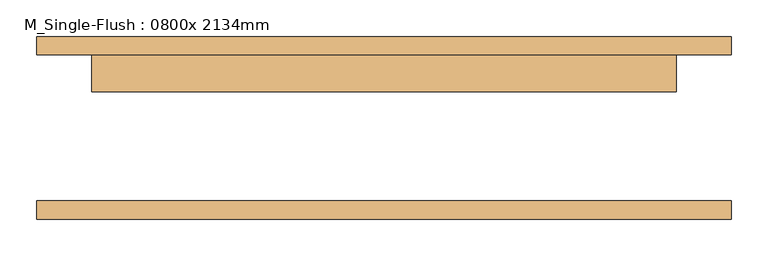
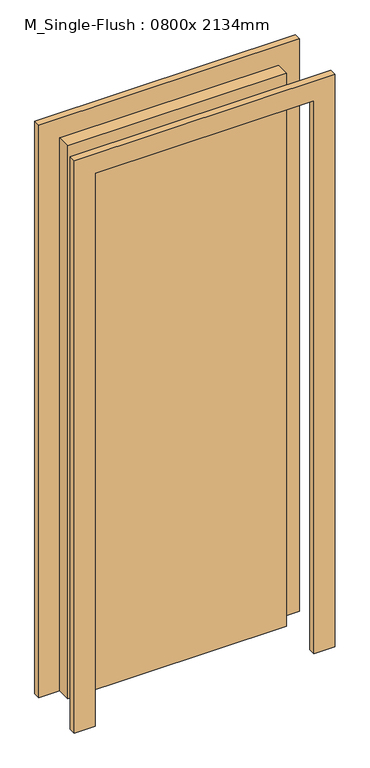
"""IFC4 building model written with IfcOpenShell, lengths in millimetres: door geometry, M_Single-Flush : 0800x 2134mm."""

from ifc_helpers import new_model, si_unit, frame, origin, origin_with_axes, place, context, project, spatial, polyline, outline, extrude, source, transform, mapped, element, save


def m_single_flush_0800x_2134mm_61c991c8(model_context):
    return source(origin(), model_context, "Body", "SweptSolid", [
        extrude(outline(polyline([(400.0, 49.0), (-400.0, 49.0), (-400.0, 100.0), (400.0, 100.0), (400.0, 49.0)])), origin_with_axes(), (0.0, 0.0, 1.0), 2134.0),
        extrude(outline(polyline([(2210.0, -476.0), (0.0, -476.0), (0.0, -400.0), (2134.0, -400.0), (2134.0, 400.0), (0.0, 400.0), (0.0, 476.0), (2210.0, 476.0), (2210.0, -476.0)])), frame((0.0, 100.0, 0.0), z_axis=(0.0, 1.0, 0.0), x_axis=(0.0, 0.0, 1.0)), (0.0, 0.0, 1.0), 25.0),
        extrude(outline(polyline([(2210.0, 476.0), (2210.0, -476.0), (0.0, -476.0), (0.0, -400.0), (2134.0, -400.0), (2134.0, 400.0), (0.0, 400.0), (0.0, 476.0), (2210.0, 476.0)])), frame((0.0, -125.0, 0.0), z_axis=(0.0, 1.0, 0.0), x_axis=(0.0, 0.0, 1.0)), (0.0, 0.0, 1.0), 25.0),
    ])


if __name__ == "__main__":
    model = new_model("IFC4")
    model_context = context("Model", 3, world=origin())
    ifc_project = project(units=[si_unit("LENGTHUNIT", "METRE", prefix="MILLI")], contexts=[model_context])
    site = spatial("IfcSite", under=ifc_project)
    building = spatial("IfcBuilding", under=site)
    placement = place(None, origin())
    m_single_flush_0800x_2134mm_shape = m_single_flush_0800x_2134mm_61c991c8(model_context)
    element("IfcDoor", 1, ObjectType="M_Single-Flush : 0800x 2134mm", at=placement, inside=building, context=model_context, shape_type="MappedRepresentation", body=[
        mapped(m_single_flush_0800x_2134mm_shape, transform((0.0, 0.0, 0.0), x_axis=(1.0, 0.0, 0.0), y_axis=(0.0, 1.0, 0.0), z_axis=(0.0, 0.0, 1.0))),
    ])
    save(model, "model.ifc")
